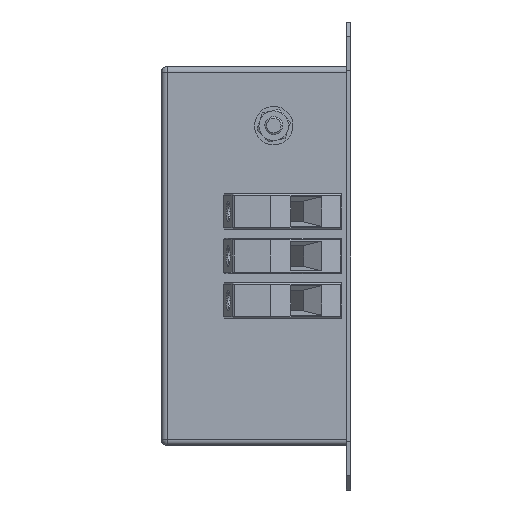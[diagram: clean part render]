
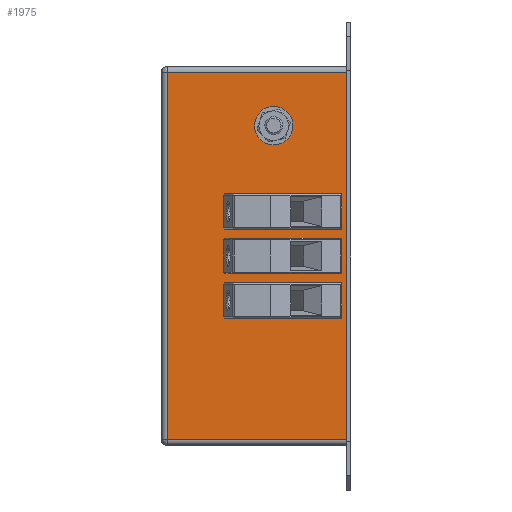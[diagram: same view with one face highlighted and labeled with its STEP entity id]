
A CAD part, left-side view. The second image highlights one B-rep face of the part: STEP entity #1975.
In plain terms, the highlighted planar face has unit normal (-1, 0, 0).
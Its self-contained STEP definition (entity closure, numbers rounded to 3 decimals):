
#11 = VERTEX_POINT ( 'NONE', #3686 ) ;
#36 = ORIENTED_EDGE ( 'NONE', *, *, #4041, .T. ) ;
#369 = LINE ( 'NONE', #7356, #3065 ) ;
#630 = ORIENTED_EDGE ( 'NONE', *, *, #2275, .T. ) ;
#672 = CARTESIAN_POINT ( 'NONE',  ( 0., 26., 123. ) ) ;
#977 = AXIS2_PLACEMENT_3D ( 'NONE', #6505, #7211, #2792 ) ;
#1020 = CARTESIAN_POINT ( 'NONE',  ( 0., 26., 120. ) ) ;
#1022 = EDGE_CURVE ( 'NONE', #1221, #11, #6758, .T. ) ;
#1212 = VERTEX_POINT ( 'NONE', #1476 ) ;
#1221 = VERTEX_POINT ( 'NONE', #4466 ) ;
#1293 = CARTESIAN_POINT ( 'NONE',  ( 0., 64., 17. ) ) ;
#1339 = ORIENTED_EDGE ( 'NONE', *, *, #4208, .T. ) ;
#1356 = DIRECTION ( 'NONE',  ( 0., 0., -1. ) ) ;
#1461 = AXIS2_PLACEMENT_3D ( 'NONE', #1631, #6667, #3081 ) ;
#1476 = CARTESIAN_POINT ( 'NONE',  ( 0., 62., 141. ) ) ;
#1631 = CARTESIAN_POINT ( 'NONE',  ( 0., 64., 15. ) ) ;
#1759 = CARTESIAN_POINT ( 'NONE',  ( 0., 26., 126. ) ) ;
#1931 = CIRCLE ( 'NONE', #4071, 1.55 ) ;
#1956 = DIRECTION ( 'NONE',  ( 0., 0., -1. ) ) ;
#1975 = ADVANCED_FACE ( 'NONE', ( #7765, #6172, #2009, #8190, #3141 ), #5928, .F. ) ;
#2008 = DIRECTION ( 'NONE',  ( 0., -1., 0. ) ) ;
#2009 = FACE_BOUND ( 'NONE', #6109, .T. ) ;
#2026 = AXIS2_PLACEMENT_3D ( 'NONE', #3848, #6768, #8138 ) ;
#2072 = CIRCLE ( 'NONE', #2720, 3. ) ;
#2275 = EDGE_CURVE ( 'NONE', #4366, #7264, #8314, .T. ) ;
#2280 = DIRECTION ( 'NONE',  ( 0., 0., -1. ) ) ;
#2465 = EDGE_CURVE ( 'NONE', #5124, #7258, #5828, .T. ) ;
#2519 = DIRECTION ( 'NONE',  ( 0., 0., -1. ) ) ;
#2607 = VERTEX_POINT ( 'NONE', #1020 ) ;
#2696 = VECTOR ( 'NONE', #7076, 1000. ) ;
#2714 = CIRCLE ( 'NONE', #2026, 1.55 ) ;
#2720 = AXIS2_PLACEMENT_3D ( 'NONE', #672, #5596, #1356 ) ;
#2744 = AXIS2_PLACEMENT_3D ( 'NONE', #4212, #4921, #4173 ) ;
#2792 = DIRECTION ( 'NONE',  ( 0., 0., -1. ) ) ;
#3065 = VECTOR ( 'NONE', #8111, 1000. ) ;
#3081 = DIRECTION ( 'NONE',  ( 0., 0., -1. ) ) ;
#3141 = FACE_OUTER_BOUND ( 'NONE', #8028, .T. ) ;
#3252 = DIRECTION ( 'NONE',  ( 1., 0., 0. ) ) ;
#3294 = VERTEX_POINT ( 'NONE', #7157 ) ;
#3402 = CARTESIAN_POINT ( 'NONE',  ( 0., 36., 95.55 ) ) ;
#3566 = VECTOR ( 'NONE', #3919, 1000. ) ;
#3596 = EDGE_CURVE ( 'NONE', #1212, #1221, #369, .T. ) ;
#3674 = EDGE_CURVE ( 'NONE', #2607, #8977, #5302, .T. ) ;
#3686 = CARTESIAN_POINT ( 'NONE',  ( 0., 1.5, 17. ) ) ;
#3816 = ORIENTED_EDGE ( 'NONE', *, *, #6201, .T. ) ;
#3831 = CARTESIAN_POINT ( 'NONE',  ( 0., 1.5, 15. ) ) ;
#3844 = VECTOR ( 'NONE', #2008, 1000. ) ;
#3848 = CARTESIAN_POINT ( 'NONE',  ( 0., 36., 79. ) ) ;
#3919 = DIRECTION ( 'NONE',  ( 0., 0., 1. ) ) ;
#3960 = EDGE_LOOP ( 'NONE', ( #36, #5462 ) ) ;
#4041 = EDGE_CURVE ( 'NONE', #7258, #5124, #1931, .T. ) ;
#4071 = AXIS2_PLACEMENT_3D ( 'NONE', #7040, #6945, #1956 ) ;
#4173 = DIRECTION ( 'NONE',  ( 0., 0., -1. ) ) ;
#4203 = CARTESIAN_POINT ( 'NONE',  ( 0., 36., 92.45 ) ) ;
#4208 = EDGE_CURVE ( 'NONE', #7264, #4366, #6325, .T. ) ;
#4212 = CARTESIAN_POINT ( 'NONE',  ( 0., 36., 94. ) ) ;
#4366 = VERTEX_POINT ( 'NONE', #4203 ) ;
#4393 = CARTESIAN_POINT ( 'NONE',  ( 0., 1.5, 141. ) ) ;
#4466 = CARTESIAN_POINT ( 'NONE',  ( 0., 62., 17. ) ) ;
#4480 = ORIENTED_EDGE ( 'NONE', *, *, #1022, .T. ) ;
#4565 = EDGE_CURVE ( 'NONE', #3294, #5143, #2714, .T. ) ;
#4915 = CARTESIAN_POINT ( 'NONE',  ( 0., 64., 141. ) ) ;
#4921 = DIRECTION ( 'NONE',  ( 1., 0., 0. ) ) ;
#5117 = CARTESIAN_POINT ( 'NONE',  ( 0., 36., 64. ) ) ;
#5124 = VERTEX_POINT ( 'NONE', #7490 ) ;
#5130 = VERTEX_POINT ( 'NONE', #4393 ) ;
#5143 = VERTEX_POINT ( 'NONE', #5797 ) ;
#5239 = EDGE_CURVE ( 'NONE', #5130, #1212, #7884, .T. ) ;
#5302 = CIRCLE ( 'NONE', #5811, 3. ) ;
#5426 = ORIENTED_EDGE ( 'NONE', *, *, #3596, .T. ) ;
#5462 = ORIENTED_EDGE ( 'NONE', *, *, #2465, .T. ) ;
#5525 = CARTESIAN_POINT ( 'NONE',  ( 0., 36., 62.45 ) ) ;
#5564 = LINE ( 'NONE', #3831, #3566 ) ;
#5596 = DIRECTION ( 'NONE',  ( 1., 0., 0. ) ) ;
#5794 = EDGE_LOOP ( 'NONE', ( #630, #1339 ) ) ;
#5797 = CARTESIAN_POINT ( 'NONE',  ( 0., 36., 80.55 ) ) ;
#5811 = AXIS2_PLACEMENT_3D ( 'NONE', #6608, #5854, #2280 ) ;
#5828 = CIRCLE ( 'NONE', #6762, 1.55 ) ;
#5854 = DIRECTION ( 'NONE',  ( 1., 0., 0. ) ) ;
#5928 = PLANE ( 'NONE',  #1461 ) ;
#5932 = ORIENTED_EDGE ( 'NONE', *, *, #3674, .T. ) ;
#6109 = EDGE_LOOP ( 'NONE', ( #8039, #3816 ) ) ;
#6172 = FACE_BOUND ( 'NONE', #5794, .T. ) ;
#6201 = EDGE_CURVE ( 'NONE', #5143, #3294, #9199, .T. ) ;
#6325 = CIRCLE ( 'NONE', #2744, 1.55 ) ;
#6505 = CARTESIAN_POINT ( 'NONE',  ( 0., 36., 94. ) ) ;
#6566 = DIRECTION ( 'NONE',  ( 1., 0., 0. ) ) ;
#6596 = DIRECTION ( 'NONE',  ( 0., 0., -1. ) ) ;
#6608 = CARTESIAN_POINT ( 'NONE',  ( 0., 26., 123. ) ) ;
#6667 = DIRECTION ( 'NONE',  ( 1., 0., 0. ) ) ;
#6758 = LINE ( 'NONE', #1293, #3844 ) ;
#6762 = AXIS2_PLACEMENT_3D ( 'NONE', #5117, #6566, #6596 ) ;
#6768 = DIRECTION ( 'NONE',  ( 1., 0., 0. ) ) ;
#6945 = DIRECTION ( 'NONE',  ( 1., 0., 0. ) ) ;
#7040 = CARTESIAN_POINT ( 'NONE',  ( 0., 36., 64. ) ) ;
#7076 = DIRECTION ( 'NONE',  ( 0., 1., 0. ) ) ;
#7157 = CARTESIAN_POINT ( 'NONE',  ( 0., 36., 77.45 ) ) ;
#7193 = ORIENTED_EDGE ( 'NONE', *, *, #5239, .T. ) ;
#7211 = DIRECTION ( 'NONE',  ( 1., 0., 0. ) ) ;
#7258 = VERTEX_POINT ( 'NONE', #5525 ) ;
#7264 = VERTEX_POINT ( 'NONE', #3402 ) ;
#7356 = CARTESIAN_POINT ( 'NONE',  ( 0., 62., 15. ) ) ;
#7490 = CARTESIAN_POINT ( 'NONE',  ( 0., 36., 65.55 ) ) ;
#7569 = CARTESIAN_POINT ( 'NONE',  ( 0., 36., 79. ) ) ;
#7650 = AXIS2_PLACEMENT_3D ( 'NONE', #7569, #3252, #2519 ) ;
#7765 = FACE_BOUND ( 'NONE', #8690, .T. ) ;
#7884 = LINE ( 'NONE', #4915, #2696 ) ;
#8028 = EDGE_LOOP ( 'NONE', ( #5426, #4480, #8852, #7193 ) ) ;
#8039 = ORIENTED_EDGE ( 'NONE', *, *, #4565, .T. ) ;
#8111 = DIRECTION ( 'NONE',  ( 0., 0., -1. ) ) ;
#8138 = DIRECTION ( 'NONE',  ( 0., 0., -1. ) ) ;
#8190 = FACE_BOUND ( 'NONE', #3960, .T. ) ;
#8314 = CIRCLE ( 'NONE', #977, 1.55 ) ;
#8354 = EDGE_CURVE ( 'NONE', #11, #5130, #5564, .T. ) ;
#8548 = EDGE_CURVE ( 'NONE', #8977, #2607, #2072, .T. ) ;
#8690 = EDGE_LOOP ( 'NONE', ( #5932, #9243 ) ) ;
#8852 = ORIENTED_EDGE ( 'NONE', *, *, #8354, .T. ) ;
#8977 = VERTEX_POINT ( 'NONE', #1759 ) ;
#9199 = CIRCLE ( 'NONE', #7650, 1.55 ) ;
#9243 = ORIENTED_EDGE ( 'NONE', *, *, #8548, .T. ) ;
